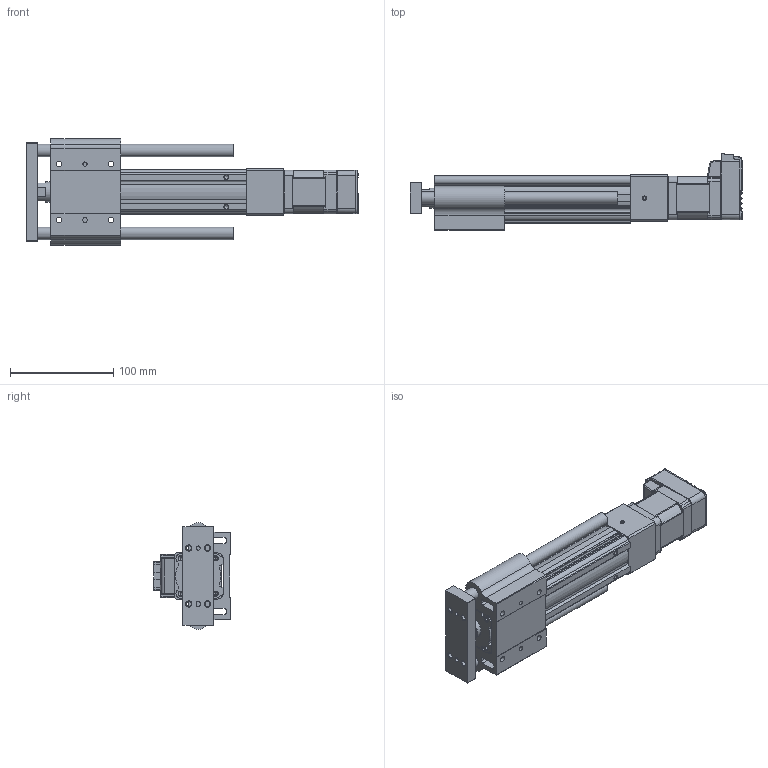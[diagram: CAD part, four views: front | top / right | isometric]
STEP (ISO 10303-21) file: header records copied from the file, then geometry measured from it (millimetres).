
FILE_DESCRIPTION (( 'STEP AP214' ), '1' );
FILE_NAME ('LEYG3(+)-25MDNM1□-100-17L.STEP', '2023-04-10T08:23:18', ( '' ), ( '' ), 'SwSTEP 2.0', 'SolidWorks 2019', '' );
FILE_SCHEMA (( 'AUTOMOTIVE_DESIGN' ));
Length unit declared in the file: millimetre
Products named in the file (6): LEYG3(+)-25MNM1□_ATTACH_100; LEYG3(+)-25□DNM1_MOTOR Flange; LEYG3(+)-25MDNM1□-100-17L; LEYG3(+)-25NM1?_BODY_100; LEYG3(+)-25MNM1?_ROD_100; CM3(+)-17L50A
Assembly tree (5 placements, depth 2):
  LEYG3(+)-25MDNM1□-100-17L
    LEYG3(+)-25NM1?_BODY_100
    LEYG3(+)-25MNM1?_ROD_100
    LEYG3(+)-25MNM1□_ATTACH_100
    LEYG3(+)-25□DNM1_MOTOR Flange
    CM3(+)-17L50A
Bounding box: 320.8 x 73.55 x 103 mm (x, y, z)
Volume: 709952.8 mm3; surface area: 161931.7 mm2
Topology: 5 solids, 5 shells, 936 faces, 2384 edges, 1501 vertices
Faces by surface type: plane 499, cylinder 272, cone 86, bspline 29, torus 29, sphere 21
Full cylindrical faces by diameter (mm): 2.5 x4, 3.5 x4, 4 x2, 4.2 x2, 4.9 x4, 5 x1, 5.4 x4, 8 x1, 11 x1, 12 x2, 22 x1, 33 x1
Entity records: 37797 total; most frequent: CARTESIAN_POINT 6834, ORIENTED_EDGE 4612, DIRECTION 4473, EDGE_CURVE 2306, AXIS2_PLACEMENT_3D 1494, VERTEX_POINT 1490, LINE 1485, VECTOR 1485
